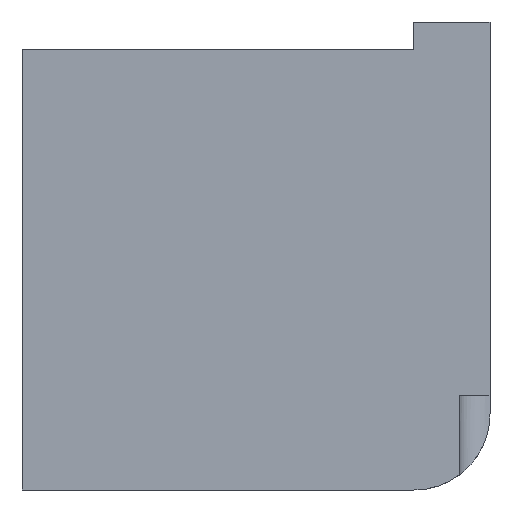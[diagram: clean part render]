
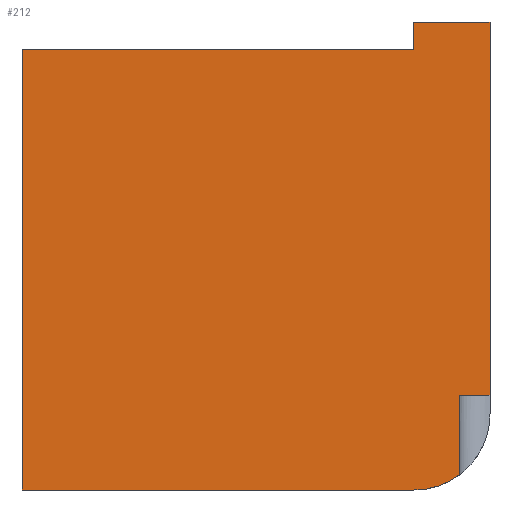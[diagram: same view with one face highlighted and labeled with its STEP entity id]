
A CAD part, front view. The second image highlights one B-rep face of the part: STEP entity #212.
In plain terms, the highlighted planar face has unit normal (0, -1, 0).
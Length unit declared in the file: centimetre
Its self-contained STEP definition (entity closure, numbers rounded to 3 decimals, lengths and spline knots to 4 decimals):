
#49 = PLANE ( 'NONE',  #94 ) ;
#54 = CARTESIAN_POINT ( 'NONE',  ( 0., 0., 1000. ) ) ;
#70 = DIRECTION ( 'NONE',  ( -1., 0., 0. ) ) ;
#75 = DIRECTION ( 'NONE',  ( 0., -1., 0. ) ) ;
#87 = CARTESIAN_POINT ( 'NONE',  ( 1000., 0., 202.3192 ) ) ;
#94 = AXIS2_PLACEMENT_3D ( 'NONE', #54, #654, #349 ) ;
#147 = LINE ( 'NONE', #669, #198 ) ;
#165 = LINE ( 'NONE', #767, #839 ) ;
#170 = CARTESIAN_POINT ( 'NONE',  ( 935.6033, 0., 202.3192 ) ) ;
#198 = VECTOR ( 'NONE', #370, 100. ) ;
#200 = VERTEX_POINT ( 'NONE', #973 ) ;
#204 = ORIENTED_EDGE ( 'NONE', *, *, #365, .F. ) ;
#212 = ADVANCED_FACE ( 'NONE', ( #801 ), #49, .F. ) ;
#215 = VECTOR ( 'NONE', #634, 100. ) ;
#222 = DIRECTION ( 'NONE',  ( 0., 0., 1. ) ) ;
#229 = CARTESIAN_POINT ( 'NONE',  ( 0., 0., 202.3192 ) ) ;
#230 = ORIENTED_EDGE ( 'NONE', *, *, #632, .F. ) ;
#240 = CARTESIAN_POINT ( 'NONE',  ( 1000., 0., 1000. ) ) ;
#268 = ORIENTED_EDGE ( 'NONE', *, *, #269, .T. ) ;
#269 = EDGE_CURVE ( 'NONE', #769, #641, #147, .T. ) ;
#274 = ORIENTED_EDGE ( 'NONE', *, *, #588, .T. ) ;
#276 = VERTEX_POINT ( 'NONE', #825 ) ;
#285 = EDGE_CURVE ( 'NONE', #625, #276, #448, .T. ) ;
#315 = VECTOR ( 'NONE', #70, 100. ) ;
#330 = LINE ( 'NONE', #952, #215 ) ;
#342 = ORIENTED_EDGE ( 'NONE', *, *, #285, .F. ) ;
#349 = DIRECTION ( 'NONE',  ( 0., 0., 1. ) ) ;
#353 = LINE ( 'NONE', #960, #983 ) ;
#365 = EDGE_CURVE ( 'NONE', #276, #540, #821, .T. ) ;
#370 = DIRECTION ( 'NONE',  ( 1., 0., 0. ) ) ;
#374 = DIRECTION ( 'NONE',  ( 0., 0., 1. ) ) ;
#444 = DIRECTION ( 'NONE',  ( 0., 0., -1. ) ) ;
#446 = CARTESIAN_POINT ( 'NONE',  ( 835.8448, 0., 940.5465 ) ) ;
#448 = LINE ( 'NONE', #892, #726 ) ;
#524 = EDGE_CURVE ( 'NONE', #685, #837, #165, .T. ) ;
#529 = VERTEX_POINT ( 'NONE', #832 ) ;
#532 = CIRCLE ( 'NONE', #822, 162.5487 ) ;
#540 = VERTEX_POINT ( 'NONE', #87 ) ;
#573 = EDGE_CURVE ( 'NONE', #529, #200, #684, .T. ) ;
#581 = DIRECTION ( 'NONE',  ( 0., 0., -1. ) ) ;
#588 = EDGE_CURVE ( 'NONE', #641, #685, #532, .T. ) ;
#603 = ORIENTED_EDGE ( 'NONE', *, *, #891, .T. ) ;
#625 = VERTEX_POINT ( 'NONE', #905 ) ;
#632 = EDGE_CURVE ( 'NONE', #540, #837, #915, .T. ) ;
#634 = DIRECTION ( 'NONE',  ( 0., 0., 1. ) ) ;
#640 = CARTESIAN_POINT ( 'NONE',  ( 0., 0., 0. ) ) ;
#641 = VERTEX_POINT ( 'NONE', #929 ) ;
#654 = DIRECTION ( 'NONE',  ( 0., 1., 0. ) ) ;
#669 = CARTESIAN_POINT ( 'NONE',  ( 0., 0., 0. ) ) ;
#675 = DIRECTION ( 'NONE',  ( -1., 0., 0. ) ) ;
#684 = LINE ( 'NONE', #446, #315 ) ;
#685 = VERTEX_POINT ( 'NONE', #785 ) ;
#702 = ORIENTED_EDGE ( 'NONE', *, *, #725, .F. ) ;
#703 = ORIENTED_EDGE ( 'NONE', *, *, #524, .T. ) ;
#725 = EDGE_CURVE ( 'NONE', #529, #625, #330, .T. ) ;
#726 = VECTOR ( 'NONE', #748, 100. ) ;
#748 = DIRECTION ( 'NONE',  ( 1., 0., 0. ) ) ;
#752 = CARTESIAN_POINT ( 'NONE',  ( 837.4513, 0., 162.5487 ) ) ;
#767 = CARTESIAN_POINT ( 'NONE',  ( 935.6033, 0., 202.3192 ) ) ;
#769 = VERTEX_POINT ( 'NONE', #640 ) ;
#785 = CARTESIAN_POINT ( 'NONE',  ( 935.6033, 0., 32.9791 ) ) ;
#801 = FACE_OUTER_BOUND ( 'NONE', #939, .T. ) ;
#821 = LINE ( 'NONE', #240, #874 ) ;
#822 = AXIS2_PLACEMENT_3D ( 'NONE', #752, #75, #374 ) ;
#825 = CARTESIAN_POINT ( 'NONE',  ( 1000., 0., 1000. ) ) ;
#832 = CARTESIAN_POINT ( 'NONE',  ( 835.8448, 0., 940.5465 ) ) ;
#837 = VERTEX_POINT ( 'NONE', #170 ) ;
#839 = VECTOR ( 'NONE', #222, 100. ) ;
#864 = ORIENTED_EDGE ( 'NONE', *, *, #573, .T. ) ;
#874 = VECTOR ( 'NONE', #444, 100. ) ;
#891 = EDGE_CURVE ( 'NONE', #200, #769, #353, .T. ) ;
#892 = CARTESIAN_POINT ( 'NONE',  ( 0., 0., 1000. ) ) ;
#905 = CARTESIAN_POINT ( 'NONE',  ( 835.8448, 0., 1000. ) ) ;
#915 = LINE ( 'NONE', #229, #924 ) ;
#924 = VECTOR ( 'NONE', #675, 100. ) ;
#929 = CARTESIAN_POINT ( 'NONE',  ( 837.4513, 0., 0. ) ) ;
#939 = EDGE_LOOP ( 'NONE', ( #864, #603, #268, #274, #703, #230, #204, #342, #702 ) ) ;
#952 = CARTESIAN_POINT ( 'NONE',  ( 835.8448, 0., 940.5465 ) ) ;
#960 = CARTESIAN_POINT ( 'NONE',  ( 0., 0., 1000. ) ) ;
#973 = CARTESIAN_POINT ( 'NONE',  ( 0., 0., 940.5465 ) ) ;
#983 = VECTOR ( 'NONE', #581, 100. ) ;
